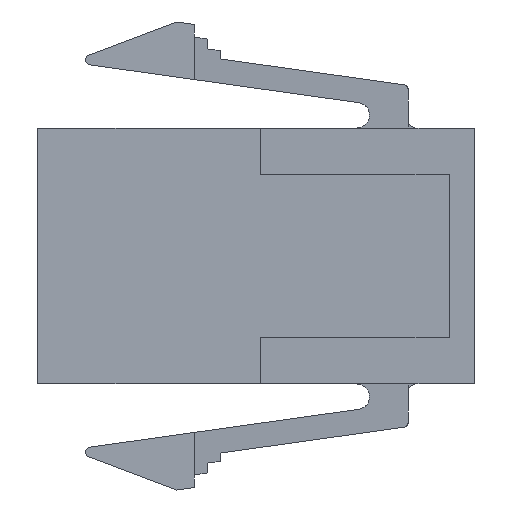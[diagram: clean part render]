
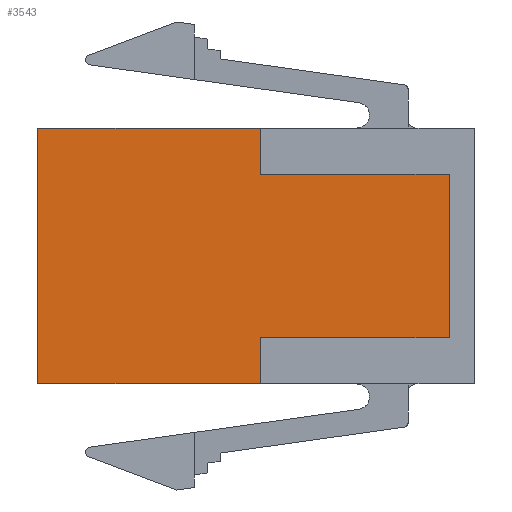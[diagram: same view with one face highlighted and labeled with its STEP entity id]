
A CAD part, left-side view. The second image highlights one B-rep face of the part: STEP entity #3543.
In plain terms, the highlighted planar face has unit normal (-1, 0, 0).
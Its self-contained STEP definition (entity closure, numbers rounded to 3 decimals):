
#11 = LINE ( 'NONE', #1257, #822 ) ;
#37 = LINE ( 'NONE', #1724, #75 ) ;
#75 = VECTOR ( 'NONE', #368, 1000. ) ;
#199 = EDGE_CURVE ( 'NONE', #4013, #2660, #438, .T. ) ;
#201 = CARTESIAN_POINT ( 'NONE',  ( 2.797, -19.127, -4.67 ) ) ;
#223 = ORIENTED_EDGE ( 'NONE', *, *, #199, .F. ) ;
#314 = ORIENTED_EDGE ( 'NONE', *, *, #2295, .T. ) ;
#363 = VERTEX_POINT ( 'NONE', #201 ) ;
#368 = DIRECTION ( 'NONE',  ( 0., 0., 1. ) ) ;
#397 = EDGE_LOOP ( 'NONE', ( #314, #2671, #1565, #3878, #1065, #870, #223, #2674 ) ) ;
#438 = LINE ( 'NONE', #2448, #4198 ) ;
#452 = PLANE ( 'NONE',  #1748 ) ;
#620 = CARTESIAN_POINT ( 'NONE',  ( 2.797, -3.217, 3.45 ) ) ;
#644 = DIRECTION ( 'NONE',  ( 0., -1., 0. ) ) ;
#786 = DIRECTION ( 'NONE',  ( 0., 1., 0. ) ) ;
#801 = DIRECTION ( 'NONE',  ( 0., 0., -1. ) ) ;
#813 = CARTESIAN_POINT ( 'NONE',  ( 2.797, -11.827, -4.67 ) ) ;
#822 = VECTOR ( 'NONE', #1330, 1000. ) ;
#865 = LINE ( 'NONE', #1192, #1043 ) ;
#870 = ORIENTED_EDGE ( 'NONE', *, *, #2597, .T. ) ;
#963 = VECTOR ( 'NONE', #4121, 1000. ) ;
#1043 = VECTOR ( 'NONE', #2852, 1000. ) ;
#1065 = ORIENTED_EDGE ( 'NONE', *, *, #3316, .T. ) ;
#1110 = DIRECTION ( 'NONE',  ( 1., 0., 0. ) ) ;
#1192 = CARTESIAN_POINT ( 'NONE',  ( 2.797, -11.827, -4.67 ) ) ;
#1252 = VERTEX_POINT ( 'NONE', #4110 ) ;
#1257 = CARTESIAN_POINT ( 'NONE',  ( 2.797, -3.217, -6.45 ) ) ;
#1330 = DIRECTION ( 'NONE',  ( 0., -1., 0. ) ) ;
#1355 = LINE ( 'NONE', #2681, #2676 ) ;
#1441 = CARTESIAN_POINT ( 'NONE',  ( 2.797, -3.217, 6.45 ) ) ;
#1466 = FACE_OUTER_BOUND ( 'NONE', #397, .T. ) ;
#1565 = ORIENTED_EDGE ( 'NONE', *, *, #3835, .T. ) ;
#1724 = CARTESIAN_POINT ( 'NONE',  ( 2.797, -19.127, -4.67 ) ) ;
#1748 = AXIS2_PLACEMENT_3D ( 'NONE', #1441, #1110, #786 ) ;
#1821 = CARTESIAN_POINT ( 'NONE',  ( 2.797, -3.217, 6.45 ) ) ;
#2147 = LINE ( 'NONE', #1821, #963 ) ;
#2276 = DIRECTION ( 'NONE',  ( 0., -1., 0. ) ) ;
#2295 = EDGE_CURVE ( 'NONE', #363, #2515, #37, .T. ) ;
#2317 = VERTEX_POINT ( 'NONE', #3054 ) ;
#2448 = CARTESIAN_POINT ( 'NONE',  ( 2.797, -11.827, 6.45 ) ) ;
#2515 = VERTEX_POINT ( 'NONE', #3907 ) ;
#2597 = EDGE_CURVE ( 'NONE', #1252, #2660, #11, .T. ) ;
#2621 = CARTESIAN_POINT ( 'NONE',  ( 2.797, -11.827, 1.67 ) ) ;
#2660 = VERTEX_POINT ( 'NONE', #3371 ) ;
#2671 = ORIENTED_EDGE ( 'NONE', *, *, #3369, .F. ) ;
#2674 = ORIENTED_EDGE ( 'NONE', *, *, #3327, .T. ) ;
#2676 = VECTOR ( 'NONE', #2987, 1000. ) ;
#2681 = CARTESIAN_POINT ( 'NONE',  ( 2.797, -11.827, -9.45 ) ) ;
#2715 = CARTESIAN_POINT ( 'NONE',  ( 2.797, -3.217, 3.45 ) ) ;
#2822 = VECTOR ( 'NONE', #2276, 1000. ) ;
#2852 = DIRECTION ( 'NONE',  ( 0., -1., 0. ) ) ;
#2987 = DIRECTION ( 'NONE',  ( 0., 0., 1. ) ) ;
#2999 = EDGE_CURVE ( 'NONE', #3459, #4038, #3244, .T. ) ;
#3054 = CARTESIAN_POINT ( 'NONE',  ( 2.797, -11.827, 1.67 ) ) ;
#3096 = VECTOR ( 'NONE', #644, 1000. ) ;
#3244 = LINE ( 'NONE', #620, #3096 ) ;
#3316 = EDGE_CURVE ( 'NONE', #3459, #1252, #2147, .T. ) ;
#3327 = EDGE_CURVE ( 'NONE', #4013, #363, #865, .T. ) ;
#3369 = EDGE_CURVE ( 'NONE', #2317, #2515, #3634, .T. ) ;
#3371 = CARTESIAN_POINT ( 'NONE',  ( 2.797, -11.827, -6.45 ) ) ;
#3410 = CARTESIAN_POINT ( 'NONE',  ( 2.797, -11.827, 3.45 ) ) ;
#3459 = VERTEX_POINT ( 'NONE', #2715 ) ;
#3543 = ADVANCED_FACE ( 'NONE', ( #1466 ), #452, .F. ) ;
#3634 = LINE ( 'NONE', #2621, #2822 ) ;
#3835 = EDGE_CURVE ( 'NONE', #2317, #4038, #1355, .T. ) ;
#3878 = ORIENTED_EDGE ( 'NONE', *, *, #2999, .F. ) ;
#3907 = CARTESIAN_POINT ( 'NONE',  ( 2.797, -19.127, 1.67 ) ) ;
#4013 = VERTEX_POINT ( 'NONE', #813 ) ;
#4038 = VERTEX_POINT ( 'NONE', #3410 ) ;
#4110 = CARTESIAN_POINT ( 'NONE',  ( 2.797, -3.217, -6.45 ) ) ;
#4121 = DIRECTION ( 'NONE',  ( 0., 0., -1. ) ) ;
#4198 = VECTOR ( 'NONE', #801, 1000. ) ;
